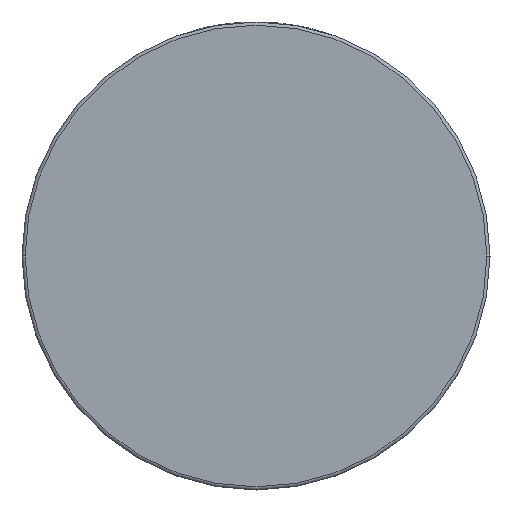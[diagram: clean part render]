
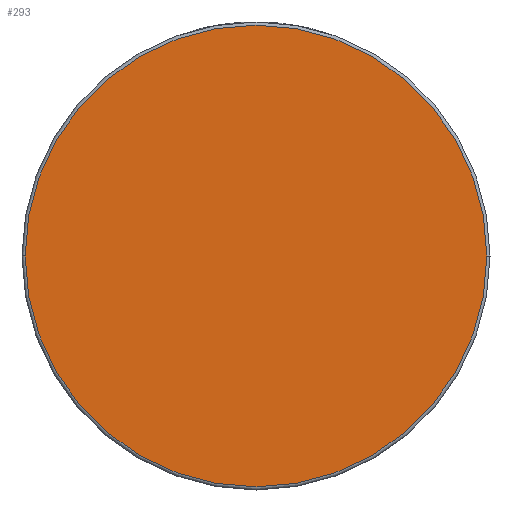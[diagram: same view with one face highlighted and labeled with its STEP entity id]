
A CAD part, front view. The second image highlights one B-rep face of the part: STEP entity #293.
In plain terms, the highlighted planar face has unit normal (0, -1, 0).
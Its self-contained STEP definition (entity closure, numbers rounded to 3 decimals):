
#197 = CARTESIAN_POINT ( 'NONE',  ( -73., -31.5, 0. ) ) ;
#293 = ADVANCED_FACE ( 'NONE', ( #1411 ), #1700, .T. ) ;
#491 = VERTEX_POINT ( 'NONE', #197 ) ;
#535 = DIRECTION ( 'NONE',  ( 1., 0., 0. ) ) ;
#604 = DIRECTION ( 'NONE',  ( 0., -1., 0. ) ) ;
#605 = VERTEX_POINT ( 'NONE', #3321 ) ;
#1245 = AXIS2_PLACEMENT_3D ( 'NONE', #1678, #3044, #2115 ) ;
#1411 = FACE_OUTER_BOUND ( 'NONE', #3876, .T. ) ;
#1465 = AXIS2_PLACEMENT_3D ( 'NONE', #1640, #2982, #4313 ) ;
#1640 = CARTESIAN_POINT ( 'NONE',  ( 0., -31.5, 0. ) ) ;
#1678 = CARTESIAN_POINT ( 'NONE',  ( 74., -31.5, 0. ) ) ;
#1700 = PLANE ( 'NONE',  #1245 ) ;
#1949 = CARTESIAN_POINT ( 'NONE',  ( 0., -31.5, 0. ) ) ;
#2115 = DIRECTION ( 'NONE',  ( 1., 0., 0. ) ) ;
#2802 = CIRCLE ( 'NONE', #1465, 73. ) ;
#2982 = DIRECTION ( 'NONE',  ( 0., -1., 0. ) ) ;
#3002 = ORIENTED_EDGE ( 'NONE', *, *, #3610, .T. ) ;
#3044 = DIRECTION ( 'NONE',  ( 0., -1., 0. ) ) ;
#3321 = CARTESIAN_POINT ( 'NONE',  ( 73., -31.5, 0. ) ) ;
#3364 = AXIS2_PLACEMENT_3D ( 'NONE', #1949, #604, #535 ) ;
#3513 = ORIENTED_EDGE ( 'NONE', *, *, #3543, .T. ) ;
#3543 = EDGE_CURVE ( 'NONE', #605, #491, #4342, .T. ) ;
#3610 = EDGE_CURVE ( 'NONE', #491, #605, #2802, .T. ) ;
#3876 = EDGE_LOOP ( 'NONE', ( #3513, #3002 ) ) ;
#4313 = DIRECTION ( 'NONE',  ( 1., 0., 0. ) ) ;
#4342 = CIRCLE ( 'NONE', #3364, 73. ) ;
